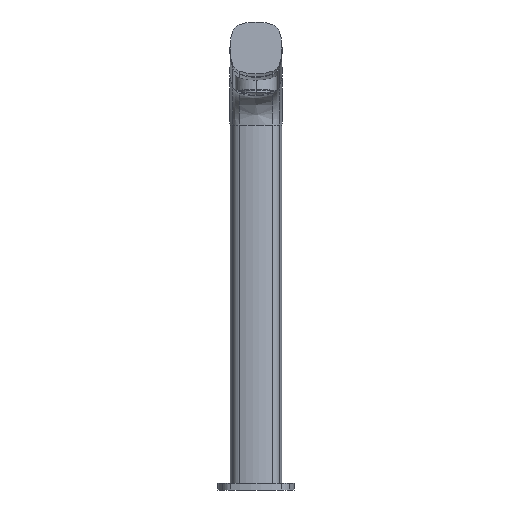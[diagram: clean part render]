
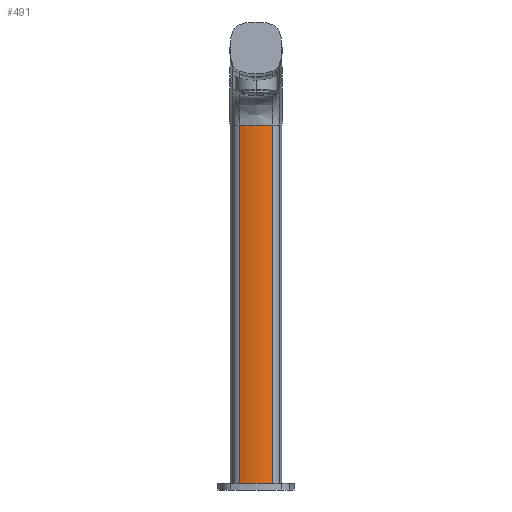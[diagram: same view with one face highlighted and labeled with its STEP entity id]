
A CAD part, front view. The second image highlights one B-rep face of the part: STEP entity #491.
In plain terms, the highlighted cylindrical face has radius 31.5 mm (diameter 63 mm), a partial arc.
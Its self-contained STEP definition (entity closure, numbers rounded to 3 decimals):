
#464 = VERTEX_POINT('',#465);
#465 = CARTESIAN_POINT('',(10.907,-15.05,
    237.618));
#472 = EDGE_CURVE('',#464,#473,#475,.T.);
#473 = VERTEX_POINT('',#474);
#474 = CARTESIAN_POINT('',(10.907,-15.05,
    4.5));
#475 = LINE('',#476,#477);
#476 = CARTESIAN_POINT('',(10.907,-15.05,
    4.5));
#477 = VECTOR('',#478,1.);
#478 = DIRECTION('',(0.,0.,-1.));
#491 = ADVANCED_FACE('',(#492),#519,.T.);
#492 = FACE_BOUND('',#493,.T.);
#493 = EDGE_LOOP('',(#494,#495,#504,#512));
#494 = ORIENTED_EDGE('',*,*,#472,.F.);
#495 = ORIENTED_EDGE('',*,*,#496,.T.);
#496 = EDGE_CURVE('',#464,#497,#499,.T.);
#497 = VERTEX_POINT('',#498);
#498 = CARTESIAN_POINT('',(-10.907,-15.05,237.618
    ));
#499 = CIRCLE('',#500,31.5);
#500 = AXIS2_PLACEMENT_3D('',#501,#502,#503);
#501 = CARTESIAN_POINT('',(0.,14.501,
    237.618));
#502 = DIRECTION('',(0.,0.,-1.));
#503 = DIRECTION('',(1.,0.,0.));
#504 = ORIENTED_EDGE('',*,*,#505,.T.);
#505 = EDGE_CURVE('',#497,#506,#508,.T.);
#506 = VERTEX_POINT('',#507);
#507 = CARTESIAN_POINT('',(-10.907,-15.05,4.5)
  );
#508 = LINE('',#509,#510);
#509 = CARTESIAN_POINT('',(-10.907,-15.05,4.5)
  );
#510 = VECTOR('',#511,1.);
#511 = DIRECTION('',(0.,0.,-1.));
#512 = ORIENTED_EDGE('',*,*,#513,.T.);
#513 = EDGE_CURVE('',#506,#473,#514,.T.);
#514 = CIRCLE('',#515,31.5);
#515 = AXIS2_PLACEMENT_3D('',#516,#517,#518);
#516 = CARTESIAN_POINT('',(0.,14.501,
    4.5));
#517 = DIRECTION('',(0.,0.,1.));
#518 = DIRECTION('',(1.,0.,0.));
#519 = CYLINDRICAL_SURFACE('',#520,31.5);
#520 = AXIS2_PLACEMENT_3D('',#521,#522,#523);
#521 = CARTESIAN_POINT('',(0.,14.501,
    4.5));
#522 = DIRECTION('',(0.,0.,-1.));
#523 = DIRECTION('',(1.,0.,0.));
